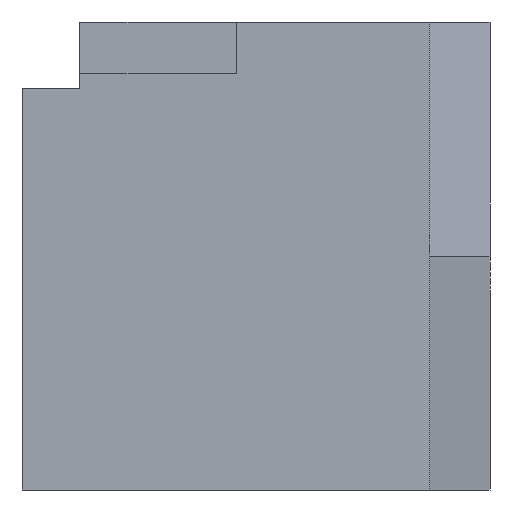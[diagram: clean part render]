
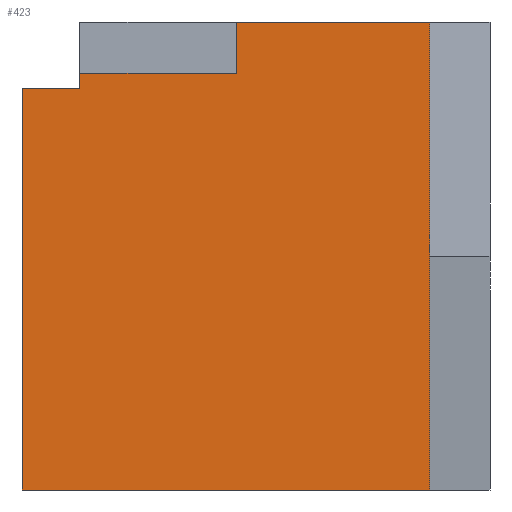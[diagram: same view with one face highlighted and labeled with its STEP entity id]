
A CAD part, front view. The second image highlights one B-rep face of the part: STEP entity #423.
In plain terms, the highlighted planar face has unit normal (0, -1, 0).
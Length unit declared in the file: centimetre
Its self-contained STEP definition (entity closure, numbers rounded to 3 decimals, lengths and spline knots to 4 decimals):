
#2 = ORIENTED_EDGE ( 'NONE', *, *, #522, .F. ) ;
#14 = ORIENTED_EDGE ( 'NONE', *, *, #278, .T. ) ;
#19 = CARTESIAN_POINT ( 'NONE',  ( 0., 0., 1000. ) ) ;
#90 = DIRECTION ( 'NONE',  ( 1., 0., 0. ) ) ;
#95 = DIRECTION ( 'NONE',  ( -1., 0., 0. ) ) ;
#102 = EDGE_CURVE ( 'NONE', #799, #934, #513, .T. ) ;
#105 = DIRECTION ( 'NONE',  ( 0., 0., 1. ) ) ;
#117 = LINE ( 'NONE', #960, #596 ) ;
#126 = DIRECTION ( 'NONE',  ( 0., 0., -1. ) ) ;
#131 = VECTOR ( 'NONE', #971, 100. ) ;
#143 = VERTEX_POINT ( 'NONE', #813 ) ;
#146 = CARTESIAN_POINT ( 'NONE',  ( 871.2189, 0., 0. ) ) ;
#148 = VECTOR ( 'NONE', #981, 100. ) ;
#155 = VERTEX_POINT ( 'NONE', #739 ) ;
#168 = VECTOR ( 'NONE', #95, 100. ) ;
#171 = CARTESIAN_POINT ( 'NONE',  ( 0., 0., 858.5205 ) ) ;
#183 = ORIENTED_EDGE ( 'NONE', *, *, #102, .T. ) ;
#185 = PLANE ( 'NONE',  #445 ) ;
#194 = ORIENTED_EDGE ( 'NONE', *, *, #963, .T. ) ;
#197 = VERTEX_POINT ( 'NONE', #171 ) ;
#203 = CARTESIAN_POINT ( 'NONE',  ( 0., 0., 1000. ) ) ;
#204 = EDGE_CURVE ( 'NONE', #155, #387, #245, .T. ) ;
#228 = CARTESIAN_POINT ( 'NONE',  ( 0., 0., 858.5205 ) ) ;
#245 = LINE ( 'NONE', #860, #994 ) ;
#272 = DIRECTION ( 'NONE',  ( -1., 0., 0. ) ) ;
#278 = EDGE_CURVE ( 'NONE', #934, #197, #450, .T. ) ;
#292 = EDGE_CURVE ( 'NONE', #387, #647, #376, .T. ) ;
#353 = CARTESIAN_POINT ( 'NONE',  ( 871.2189, 0., 0. ) ) ;
#356 = CARTESIAN_POINT ( 'NONE',  ( 123.855, 0., 858.5205 ) ) ;
#360 = CARTESIAN_POINT ( 'NONE',  ( 871.2189, 0., 1000. ) ) ;
#366 = CARTESIAN_POINT ( 'NONE',  ( 123.855, 0., 858.5205 ) ) ;
#368 = VECTOR ( 'NONE', #90, 100. ) ;
#376 = LINE ( 'NONE', #457, #368 ) ;
#387 = VERTEX_POINT ( 'NONE', #942 ) ;
#418 = VECTOR ( 'NONE', #126, 100. ) ;
#423 = ADVANCED_FACE ( 'NONE', ( #869 ), #185, .F. ) ;
#428 = LINE ( 'NONE', #885, #983 ) ;
#445 = AXIS2_PLACEMENT_3D ( 'NONE', #19, #878, #105 ) ;
#450 = LINE ( 'NONE', #228, #168 ) ;
#454 = EDGE_CURVE ( 'NONE', #155, #799, #117, .T. ) ;
#457 = CARTESIAN_POINT ( 'NONE',  ( 0., 0., 1000. ) ) ;
#492 = EDGE_CURVE ( 'NONE', #197, #143, #588, .T. ) ;
#500 = DIRECTION ( 'NONE',  ( 1., 0., 0. ) ) ;
#513 = LINE ( 'NONE', #366, #148 ) ;
#522 = EDGE_CURVE ( 'NONE', #647, #650, #892, .T. ) ;
#588 = LINE ( 'NONE', #203, #418 ) ;
#596 = VECTOR ( 'NONE', #272, 100. ) ;
#599 = ORIENTED_EDGE ( 'NONE', *, *, #292, .F. ) ;
#647 = VERTEX_POINT ( 'NONE', #360 ) ;
#650 = VERTEX_POINT ( 'NONE', #146 ) ;
#654 = ORIENTED_EDGE ( 'NONE', *, *, #204, .F. ) ;
#691 = CARTESIAN_POINT ( 'NONE',  ( 123.855, 0., 890.688 ) ) ;
#694 = ORIENTED_EDGE ( 'NONE', *, *, #492, .T. ) ;
#739 = CARTESIAN_POINT ( 'NONE',  ( 457.4385, 0., 890.688 ) ) ;
#759 = DIRECTION ( 'NONE',  ( 0., 0., 1. ) ) ;
#787 = EDGE_LOOP ( 'NONE', ( #654, #842, #183, #14, #694, #194, #2, #599 ) ) ;
#799 = VERTEX_POINT ( 'NONE', #691 ) ;
#813 = CARTESIAN_POINT ( 'NONE',  ( 0., 0., 0. ) ) ;
#842 = ORIENTED_EDGE ( 'NONE', *, *, #454, .T. ) ;
#860 = CARTESIAN_POINT ( 'NONE',  ( 457.4385, 0., 890.688 ) ) ;
#869 = FACE_OUTER_BOUND ( 'NONE', #787, .T. ) ;
#878 = DIRECTION ( 'NONE',  ( 0., 1., 0. ) ) ;
#885 = CARTESIAN_POINT ( 'NONE',  ( 0., 0., 0. ) ) ;
#892 = LINE ( 'NONE', #353, #131 ) ;
#934 = VERTEX_POINT ( 'NONE', #356 ) ;
#942 = CARTESIAN_POINT ( 'NONE',  ( 457.4385, 0., 1000. ) ) ;
#960 = CARTESIAN_POINT ( 'NONE',  ( 457.4385, 0., 890.688 ) ) ;
#963 = EDGE_CURVE ( 'NONE', #143, #650, #428, .T. ) ;
#971 = DIRECTION ( 'NONE',  ( 0., 0., -1. ) ) ;
#981 = DIRECTION ( 'NONE',  ( 0., 0., -1. ) ) ;
#983 = VECTOR ( 'NONE', #500, 100. ) ;
#994 = VECTOR ( 'NONE', #759, 100. ) ;
